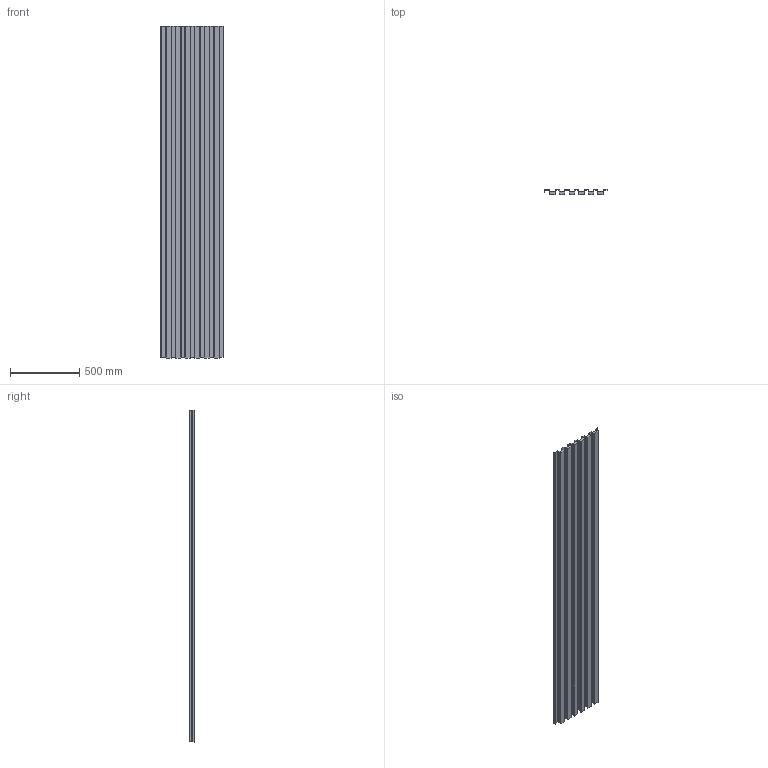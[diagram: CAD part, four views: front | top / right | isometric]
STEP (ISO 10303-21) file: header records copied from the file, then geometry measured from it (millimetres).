
FILE_DESCRIPTION(/* description */ (''),/* implementation_level */ '2;1');
FILE_NAME(/* name */ 'Aluwood 6201, 6202, 6203, 6206',/* time_stamp */ '2026-02-25T15:36:47+01:00',/* author */ (''),/* organization */ (''),/* preprocessor_version */ 'ST-DEVELOPER v19.2',/* originating_system */ 'Rhino 8.12',/* authorisation */ '');
FILE_SCHEMA (('CONFIG_CONTROL_DESIGN'));
Length unit declared in the file: millimetre
Products named in the file (1): Document
Bounding box: 451 x 33.8 x 2404.82 mm (x, y, z)
Volume: 11563059.9 mm3; surface area: 4706090.5 mm2
Topology: 7 solids, 7 shells, 166 faces, 456 edges, 304 vertices
Faces by surface type: plane 92, cylinder 74
Entity records: 5589 total; most frequent: CARTESIAN_POINT 1940, ORIENTED_EDGE 912, EDGE_CURVE 456, DIRECTION 418, VERTEX_POINT 304, AXIS2_PLACEMENT_3D 292, B_SPLINE_CURVE_WITH_KNOTS 257, ADVANCED_FACE 166
